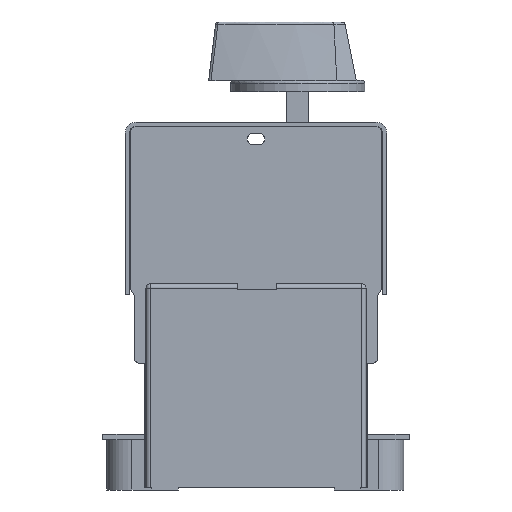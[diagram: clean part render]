
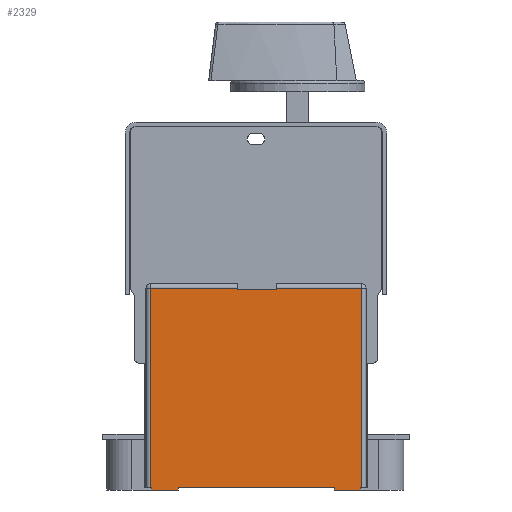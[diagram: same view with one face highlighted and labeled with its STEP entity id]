
A CAD part, left-side view. The second image highlights one B-rep face of the part: STEP entity #2329.
In plain terms, the highlighted planar face has unit normal (-1, 0, 0).
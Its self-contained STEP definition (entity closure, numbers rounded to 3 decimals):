
#2329=ADVANCED_FACE('',(#3932),#2995,.F.);
#2995=PLANE('',#21253);
#3932=FACE_OUTER_BOUND('',#5119,.T.);
#5119=EDGE_LOOP('',(#10192,#10193,#10194,#10195,#10196,#10197,#10198,#10199,
#10200,#10201,#10202,#10203,#10204,#10205,#10206,#10207));
#10192=ORIENTED_EDGE('',*,*,#15403,.F.);
#10193=ORIENTED_EDGE('',*,*,#15193,.T.);
#10194=ORIENTED_EDGE('',*,*,#15017,.T.);
#10195=ORIENTED_EDGE('',*,*,#15405,.F.);
#10196=ORIENTED_EDGE('',*,*,#15020,.T.);
#10197=ORIENTED_EDGE('',*,*,#15153,.T.);
#10198=ORIENTED_EDGE('',*,*,#15406,.T.);
#10199=ORIENTED_EDGE('',*,*,#15407,.T.);
#10200=ORIENTED_EDGE('',*,*,#15408,.F.);
#10201=ORIENTED_EDGE('',*,*,#15240,.F.);
#10202=ORIENTED_EDGE('',*,*,#15245,.T.);
#10203=ORIENTED_EDGE('',*,*,#15409,.T.);
#10204=ORIENTED_EDGE('',*,*,#15253,.F.);
#10205=ORIENTED_EDGE('',*,*,#15247,.F.);
#10206=ORIENTED_EDGE('',*,*,#15410,.T.);
#10207=ORIENTED_EDGE('',*,*,#15411,.T.);
#12433=VERTEX_POINT('',#31861);
#12434=VERTEX_POINT('',#31863);
#12436=VERTEX_POINT('',#31869);
#12437=VERTEX_POINT('',#31870);
#12525=VERTEX_POINT('',#32175);
#12526=VERTEX_POINT('',#32179);
#12572=VERTEX_POINT('',#32360);
#12573=VERTEX_POINT('',#32361);
#12577=VERTEX_POINT('',#32370);
#12578=VERTEX_POINT('',#32375);
#12579=VERTEX_POINT('',#32376);
#12582=VERTEX_POINT('',#32384);
#12673=VERTEX_POINT('',#32672);
#12674=VERTEX_POINT('',#32677);
#12675=VERTEX_POINT('',#32679);
#12676=VERTEX_POINT('',#32683);
#15017=EDGE_CURVE('',#12434,#12433,#17214,.T.);
#15020=EDGE_CURVE('',#12436,#12437,#17216,.T.);
#15153=EDGE_CURVE('',#12437,#12526,#17286,.T.);
#15193=EDGE_CURVE('',#12525,#12434,#17302,.T.);
#15240=EDGE_CURVE('',#12572,#12573,#17337,.T.);
#15245=EDGE_CURVE('',#12572,#12577,#17342,.T.);
#15247=EDGE_CURVE('',#12578,#12579,#17344,.T.);
#15253=EDGE_CURVE('',#12579,#12582,#17350,.T.);
#15403=EDGE_CURVE('',#12525,#12673,#17487,.T.);
#15405=EDGE_CURVE('',#12436,#12433,#17488,.T.);
#15406=EDGE_CURVE('',#12526,#12674,#17489,.T.);
#15407=EDGE_CURVE('',#12674,#12675,#17490,.T.);
#15408=EDGE_CURVE('',#12573,#12675,#17491,.T.);
#15409=EDGE_CURVE('',#12577,#12582,#17492,.T.);
#15410=EDGE_CURVE('',#12578,#12676,#17493,.T.);
#15411=EDGE_CURVE('',#12676,#12673,#17494,.T.);
#17214=LINE('',#31862,#19284);
#17216=LINE('',#31868,#19286);
#17286=LINE('',#32180,#19356);
#17302=LINE('',#32260,#19372);
#17337=LINE('',#32359,#19407);
#17342=LINE('',#32371,#19412);
#17344=LINE('',#32374,#19414);
#17350=LINE('',#32387,#19420);
#17487=LINE('',#32671,#19557);
#17488=LINE('',#32675,#19558);
#17489=LINE('',#32676,#19559);
#17490=LINE('',#32678,#19560);
#17491=LINE('',#32680,#19561);
#17492=LINE('',#32681,#19562);
#17493=LINE('',#32682,#19563);
#17494=LINE('',#32684,#19564);
#19284=VECTOR('',#25637,1.);
#19286=VECTOR('',#25643,1.);
#19356=VECTOR('',#25931,1.);
#19372=VECTOR('',#26043,1.);
#19407=VECTOR('',#26148,1.);
#19412=VECTOR('',#26155,1.);
#19414=VECTOR('',#26159,1.);
#19420=VECTOR('',#26167,1.);
#19557=VECTOR('',#26420,1.);
#19558=VECTOR('',#26425,1.);
#19559=VECTOR('',#26426,1.);
#19560=VECTOR('',#26427,1.);
#19561=VECTOR('',#26428,1.);
#19562=VECTOR('',#26429,1.);
#19563=VECTOR('',#26430,1.);
#19564=VECTOR('',#26431,1.);
#21253=AXIS2_PLACEMENT_3D('',#32685,#26432,#26433);
#25637=DIRECTION('',(0.,0.,-1.));
#25643=DIRECTION('',(0.,0.,1.));
#25931=DIRECTION('',(0.,1.,0.));
#26043=DIRECTION('',(0.,1.,0.));
#26148=DIRECTION('',(0.,1.,0.));
#26155=DIRECTION('',(0.,0.,1.));
#26159=DIRECTION('',(0.,1.,0.));
#26167=DIRECTION('',(0.,0.,1.));
#26420=DIRECTION('',(0.,0.,-1.));
#26425=DIRECTION('',(0.,-1.,0.));
#26426=DIRECTION('',(0.,0.,-1.));
#26427=DIRECTION('',(0.,-1.,0.));
#26428=DIRECTION('',(0.,0.,1.));
#26429=DIRECTION('',(0.,-1.,0.));
#26430=DIRECTION('',(0.,0.,1.));
#26431=DIRECTION('',(0.,-1.,0.));
#26432=DIRECTION('',(1.,0.,0.));
#26433=DIRECTION('',(0.,0.,-1.));
#31861=CARTESIAN_POINT('',(-69.,-31.985,67.));
#31862=CARTESIAN_POINT('',(-69.,-31.985,69.1));
#31863=CARTESIAN_POINT('',(-69.,-31.985,67.6));
#31868=CARTESIAN_POINT('',(-69.,-17.985,69.1));
#31869=CARTESIAN_POINT('',(-69.,-17.985,67.));
#31870=CARTESIAN_POINT('',(-69.,-17.985,67.6));
#32175=CARTESIAN_POINT('',(-69.,-62.735,67.6));
#32179=CARTESIAN_POINT('',(-69.,13.265,67.6));
#32180=CARTESIAN_POINT('',(-69.,13.265,67.6));
#32260=CARTESIAN_POINT('',(-69.,13.265,67.6));
#32359=CARTESIAN_POINT('',(-69.,3.265,-4.9));
#32360=CARTESIAN_POINT('',(-69.,3.265,-4.9));
#32361=CARTESIAN_POINT('',(-69.,12.765,-4.9));
#32370=CARTESIAN_POINT('',(-69.,3.265,-3.9));
#32371=CARTESIAN_POINT('',(-69.,3.265,-5.9));
#32374=CARTESIAN_POINT('',(-69.,-62.235,-4.9));
#32375=CARTESIAN_POINT('',(-69.,-62.235,-4.9));
#32376=CARTESIAN_POINT('',(-69.,-52.735,-4.9));
#32384=CARTESIAN_POINT('',(-69.,-52.735,-3.9));
#32387=CARTESIAN_POINT('',(-69.,-52.735,-5.9));
#32671=CARTESIAN_POINT('',(-69.,-62.735,69.1));
#32672=CARTESIAN_POINT('',(-69.,-62.735,-3.9));
#32675=CARTESIAN_POINT('',(-69.,12.765,67.));
#32676=CARTESIAN_POINT('',(-69.,13.265,69.1));
#32677=CARTESIAN_POINT('',(-69.,13.265,-3.9));
#32678=CARTESIAN_POINT('',(-69.,-62.235,-3.9));
#32679=CARTESIAN_POINT('',(-69.,12.765,-3.9));
#32680=CARTESIAN_POINT('',(-69.,12.765,-5.9));
#32681=CARTESIAN_POINT('',(-69.,-62.235,-3.9));
#32682=CARTESIAN_POINT('',(-69.,-62.235,-5.9));
#32683=CARTESIAN_POINT('',(-69.,-62.235,-3.9));
#32684=CARTESIAN_POINT('',(-69.,-62.235,-3.9));
#32685=CARTESIAN_POINT('',(-69.,-62.235,69.1));
